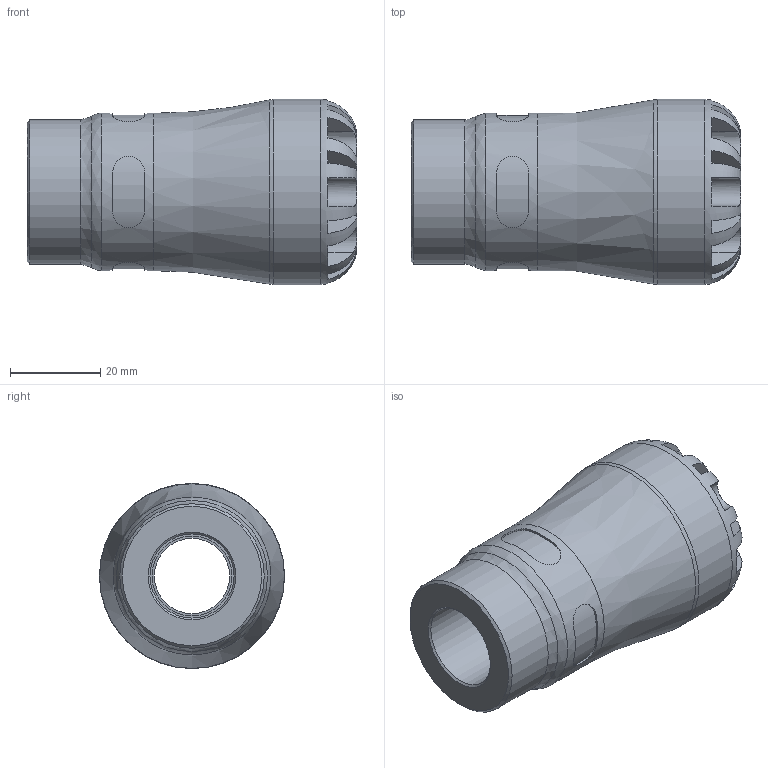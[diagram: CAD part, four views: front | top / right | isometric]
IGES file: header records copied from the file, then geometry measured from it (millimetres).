
Global section: file name: 107300020005_197300020005.ipt; native system: Autodesk Inventor 2015; preprocessor: unknown; author: KIM; date: 20170122.113554; units: millimetre
Bounding box: 73 x 41 x 41 mm (x, y, z)
Volume: 52190.2 mm3; surface area: 15268.7 mm2
Topology: 1 solids, 1 shells, 104 faces, 270 edges, 174 vertices
Faces by surface type: plane 61, revolution 27, cylinder 15, cone 1
Full cylindrical faces by diameter (mm): 31.98 x1, 34.85 x1, 41 x1
